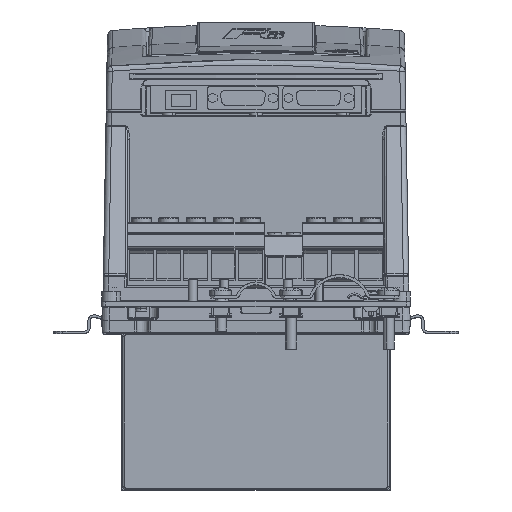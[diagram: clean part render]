
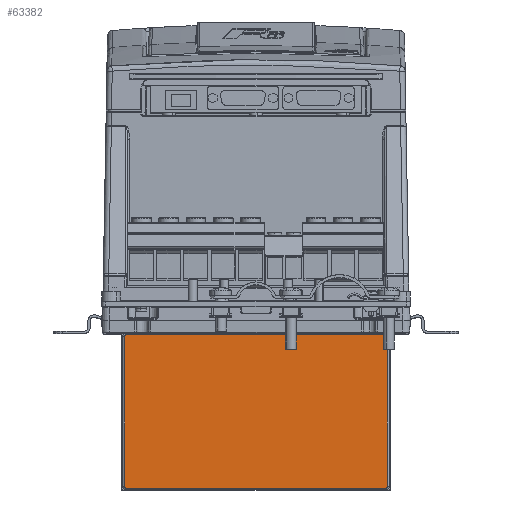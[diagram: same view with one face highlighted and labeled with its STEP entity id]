
A CAD part, top view. The second image highlights one B-rep face of the part: STEP entity #63382.
In plain terms, the highlighted planar face has unit normal (0, 0, 1).
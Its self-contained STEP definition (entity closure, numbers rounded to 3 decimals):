
#429 = LINE ( 'NONE', #86573, #21911 ) ;
#1547 = CARTESIAN_POINT ( 'NONE',  ( 72.5, -4.5, 60. ) ) ;
#1667 = ORIENTED_EDGE ( 'NONE', *, *, #40668, .T. ) ;
#1847 = AXIS2_PLACEMENT_3D ( 'NONE', #89926, #53737, #91767 ) ;
#3607 = DIRECTION ( 'NONE',  ( 1., 0., 0. ) ) ;
#4242 = DIRECTION ( 'NONE',  ( 1., 0., 0. ) ) ;
#9969 = CARTESIAN_POINT ( 'NONE',  ( 0., -45.75, 60. ) ) ;
#11507 = AXIS2_PLACEMENT_3D ( 'NONE', #9969, #104188, #106039 ) ;
#12033 = DIRECTION ( 'NONE',  ( 1., 0., 0. ) ) ;
#13758 = VERTEX_POINT ( 'NONE', #78694 ) ;
#18258 = VECTOR ( 'NONE', #12033, 1000. ) ;
#21911 = VECTOR ( 'NONE', #76583, 1000. ) ;
#24097 = CARTESIAN_POINT ( 'NONE',  ( -72.5, -87., 60. ) ) ;
#29192 = DIRECTION ( 'NONE',  ( 0., 1., 0. ) ) ;
#29304 = PLANE ( 'NONE',  #11507 ) ;
#31411 = ORIENTED_EDGE ( 'NONE', *, *, #105468, .T. ) ;
#36069 = CARTESIAN_POINT ( 'NONE',  ( 71.5, -3.5, 60. ) ) ;
#37976 = CARTESIAN_POINT ( 'NONE',  ( 72.5, -45.75, 60. ) ) ;
#39768 = CARTESIAN_POINT ( 'NONE',  ( 71.5, -87., 60. ) ) ;
#40668 = EDGE_CURVE ( 'NONE', #74755, #86588, #93309, .T. ) ;
#45348 = EDGE_CURVE ( 'NONE', #86588, #116356, #79434, .T. ) ;
#47326 = LINE ( 'NONE', #37976, #88737 ) ;
#48271 = EDGE_CURVE ( 'NONE', #13758, #75545, #77620, .T. ) ;
#52789 = ORIENTED_EDGE ( 'NONE', *, *, #45348, .T. ) ;
#52957 = CARTESIAN_POINT ( 'NONE',  ( 72.5, -87., 60. ) ) ;
#53737 = DIRECTION ( 'NONE',  ( 0., 0., 1. ) ) ;
#56461 = ORIENTED_EDGE ( 'NONE', *, *, #78904, .T. ) ;
#57170 = VERTEX_POINT ( 'NONE', #1547 ) ;
#58534 = ORIENTED_EDGE ( 'NONE', *, *, #118072, .T. ) ;
#63382 = ADVANCED_FACE ( 'NONE', ( #67965 ), #29304, .T. ) ;
#63489 = EDGE_CURVE ( 'NONE', #57170, #66027, #65333, .T. ) ;
#65333 = CIRCLE ( 'NONE', #73313, 1. ) ;
#66027 = VERTEX_POINT ( 'NONE', #36069 ) ;
#66741 = ORIENTED_EDGE ( 'NONE', *, *, #63489, .T. ) ;
#67148 = EDGE_LOOP ( 'NONE', ( #56461, #66741, #31411, #102090, #58534, #1667, #52789, #121306 ) ) ;
#67965 = FACE_OUTER_BOUND ( 'NONE', #67148, .T. ) ;
#70688 = CARTESIAN_POINT ( 'NONE',  ( -71.5, -88., 60. ) ) ;
#73313 = AXIS2_PLACEMENT_3D ( 'NONE', #87953, #90381, #4242 ) ;
#74616 = VECTOR ( 'NONE', #78937, 1000. ) ;
#74654 = EDGE_CURVE ( 'NONE', #116356, #109598, #115964, .T. ) ;
#74755 = VERTEX_POINT ( 'NONE', #24097 ) ;
#75545 = VERTEX_POINT ( 'NONE', #87856 ) ;
#76583 = DIRECTION ( 'NONE',  ( 0., -1., 0. ) ) ;
#77620 = CIRCLE ( 'NONE', #1847, 1. ) ;
#78694 = CARTESIAN_POINT ( 'NONE',  ( -71.5, -3.5, 60. ) ) ;
#78904 = EDGE_CURVE ( 'NONE', #109598, #57170, #47326, .T. ) ;
#78937 = DIRECTION ( 'NONE',  ( -1., 0., 0. ) ) ;
#79434 = LINE ( 'NONE', #109374, #18258 ) ;
#81031 = DIRECTION ( 'NONE',  ( 0., 0., 1. ) ) ;
#82528 = CARTESIAN_POINT ( 'NONE',  ( 71.5, -88., 60. ) ) ;
#86573 = CARTESIAN_POINT ( 'NONE',  ( -72.5, -45.75, 60. ) ) ;
#86588 = VERTEX_POINT ( 'NONE', #70688 ) ;
#87236 = DIRECTION ( 'NONE',  ( 1., 0., 0. ) ) ;
#87856 = CARTESIAN_POINT ( 'NONE',  ( -72.5, -4.5, 60. ) ) ;
#87953 = CARTESIAN_POINT ( 'NONE',  ( 71.5, -4.5, 60. ) ) ;
#88308 = CARTESIAN_POINT ( 'NONE',  ( 0., -3.5, 60. ) ) ;
#88737 = VECTOR ( 'NONE', #29192, 1000. ) ;
#89926 = CARTESIAN_POINT ( 'NONE',  ( -71.5, -4.5, 60. ) ) ;
#90381 = DIRECTION ( 'NONE',  ( 0., 0., 1. ) ) ;
#90986 = CARTESIAN_POINT ( 'NONE',  ( -71.5, -87., 60. ) ) ;
#91767 = DIRECTION ( 'NONE',  ( 1., 0., 0. ) ) ;
#93309 = CIRCLE ( 'NONE', #97201, 1. ) ;
#95339 = DIRECTION ( 'NONE',  ( 0., 0., 1. ) ) ;
#95831 = LINE ( 'NONE', #88308, #74616 ) ;
#96037 = AXIS2_PLACEMENT_3D ( 'NONE', #39768, #95339, #87236 ) ;
#97201 = AXIS2_PLACEMENT_3D ( 'NONE', #90986, #81031, #3607 ) ;
#102090 = ORIENTED_EDGE ( 'NONE', *, *, #48271, .T. ) ;
#104188 = DIRECTION ( 'NONE',  ( 0., 0., 1. ) ) ;
#105468 = EDGE_CURVE ( 'NONE', #66027, #13758, #95831, .T. ) ;
#106039 = DIRECTION ( 'NONE',  ( 1., 0., 0. ) ) ;
#109374 = CARTESIAN_POINT ( 'NONE',  ( 0., -88., 60. ) ) ;
#109598 = VERTEX_POINT ( 'NONE', #52957 ) ;
#115964 = CIRCLE ( 'NONE', #96037, 1. ) ;
#116356 = VERTEX_POINT ( 'NONE', #82528 ) ;
#118072 = EDGE_CURVE ( 'NONE', #75545, #74755, #429, .T. ) ;
#121306 = ORIENTED_EDGE ( 'NONE', *, *, #74654, .T. ) ;
